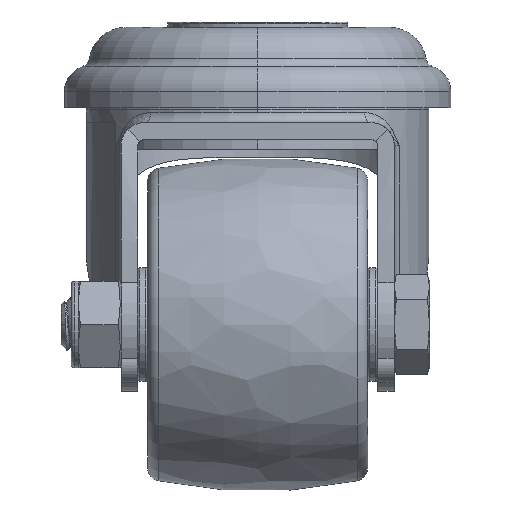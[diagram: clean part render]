
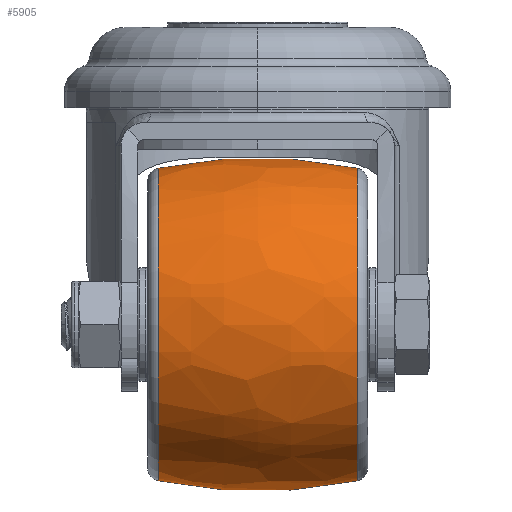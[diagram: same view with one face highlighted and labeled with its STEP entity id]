
A CAD part, left-side view. The second image highlights one B-rep face of the part: STEP entity #5905.
In plain terms, the highlighted free-form (B-spline) face has degree [3, 3] with [7, 4] control points.
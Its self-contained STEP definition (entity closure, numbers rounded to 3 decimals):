
#5727=CARTESIAN_POINT('',(14.911,0.,0.));
#5728=DIRECTION('',(-1.,0.,0.));
#5729=DIRECTION('',(0.,0.,-1.));
#5730=AXIS2_PLACEMENT_3D('',#5727,#5728,#5729);
#5732=CARTESIAN_POINT('',(-14.911,0.,0.));
#5733=DIRECTION('',(-1.,0.,0.));
#5734=DIRECTION('',(0.,0.,-1.));
#5735=AXIS2_PLACEMENT_3D('',#5732,#5733,#5734);
#5742=CARTESIAN_POINT('',(0.,0.,-47.595));
#5743=DIRECTION('',(0.,-1.,0.));
#5744=DIRECTION('',(0.205,0.,0.979));
#5745=AXIS2_PLACEMENT_3D('',#5742,#5743,#5744);
#5752=CARTESIAN_POINT('',(0.,0.,47.595));
#5753=DIRECTION('',(0.,1.,0.));
#5754=DIRECTION('',(0.205,0.,-0.979));
#5755=AXIS2_PLACEMENT_3D('',#5752,#5753,#5754);
#5790=CARTESIAN_POINT('',(14.911,0.,-23.452));
#5791=CARTESIAN_POINT('',(14.911,0.,23.452));
#5792=VERTEX_POINT('',#5790);
#5793=VERTEX_POINT('',#5791);
#5802=CARTESIAN_POINT('',(-14.911,0.,-23.452));
#5803=CARTESIAN_POINT('',(-14.911,0.,23.452));
#5804=VERTEX_POINT('',#5802);
#5805=VERTEX_POINT('',#5803);
#5867=CARTESIAN_POINT('',(-15.498,1.465,23.28));
#5868=CARTESIAN_POINT('',(-5.247,1.605,25.516));
#5869=CARTESIAN_POINT('',(5.247,1.605,25.516));
#5870=CARTESIAN_POINT('',(15.498,1.465,23.28));
#5871=CARTESIAN_POINT('',(-15.498,-12.862,
24.182));
#5872=CARTESIAN_POINT('',(-5.247,-14.097,
26.504));
#5873=CARTESIAN_POINT('',(5.247,-14.097,26.504));
#5874=CARTESIAN_POINT('',(15.498,-12.862,24.182));
#5875=CARTESIAN_POINT('',(-15.498,-23.326,
14.355));
#5876=CARTESIAN_POINT('',(-5.247,-25.567,
15.734));
#5877=CARTESIAN_POINT('',(5.247,-25.567,15.734));
#5878=CARTESIAN_POINT('',(15.498,-23.326,14.355));
#5879=CARTESIAN_POINT('',(-15.498,-23.326,0.));
#5880=CARTESIAN_POINT('',(-5.247,-25.567,0.));
#5881=CARTESIAN_POINT('',(5.247,-25.567,0.));
#5882=CARTESIAN_POINT('',(15.498,-23.326,0.));
#5883=CARTESIAN_POINT('',(-15.498,-23.326,
-14.355));
#5884=CARTESIAN_POINT('',(-5.247,-25.567,
-15.734));
#5885=CARTESIAN_POINT('',(5.247,-25.567,
-15.734));
#5886=CARTESIAN_POINT('',(15.498,-23.326,
-14.355));
#5887=CARTESIAN_POINT('',(-15.498,-12.862,
-24.182));
#5888=CARTESIAN_POINT('',(-5.247,-14.097,
-26.504));
#5889=CARTESIAN_POINT('',(5.247,-14.097,
-26.504));
#5890=CARTESIAN_POINT('',(15.498,-12.862,
-24.182));
#5891=CARTESIAN_POINT('',(-15.498,1.465,
-23.28));
#5892=CARTESIAN_POINT('',(-5.247,1.605,
-25.516));
#5893=CARTESIAN_POINT('',(5.247,1.605,-25.516));
#5894=CARTESIAN_POINT('',(15.498,1.465,-23.28));
#5895=(BOUNDED_SURFACE()B_SPLINE_SURFACE(3,3,((#5867,#5868,#5869,#5870),(#5871,
#5872,#5873,#5874),(#5875,#5876,#5877,#5878),(#5879,#5880,#5881,#5882),(#5883,
#5884,#5885,#5886),(#5887,#5888,#5889,#5890),(#5891,#5892,#5893,#5894)),
.UNSPECIFIED.,.F.,.F.,.F.)B_SPLINE_SURFACE_WITH_KNOTS((4,3,4),(4,4),(0.,1.,
2.),(0.,1.),.UNSPECIFIED.)GEOMETRIC_REPRESENTATION_ITEM()RATIONAL_B_SPLINE_SURFACE(((1.201,1.183,1.183,1.201),(
0.949,0.934,0.934,0.949),(
0.949,0.934,0.934,0.949),(
1.201,1.183,1.183,1.201),(
0.949,0.934,0.934,0.949),(
0.949,0.934,0.934,0.949),(
1.201,1.183,1.183,1.201)))REPRESENTATION_ITEM('')SURFACE());
#5896=ORIENTED_EDGE('',*,*,#5857,.F.);
#5898=ORIENTED_EDGE('',*,*,#5897,.T.);
#5900=ORIENTED_EDGE('',*,*,#5899,.T.);
#5902=ORIENTED_EDGE('',*,*,#5901,.F.);
#5903=EDGE_LOOP('',(#5896,#5898,#5900,#5902));
#5904=FACE_OUTER_BOUND('',#5903,.F.);
#5905=ADVANCED_FACE('',(#5904),#5895,.T.);
#5731=CIRCLE('',#5730,23.452);
#5736=CIRCLE('',#5735,23.452);
#5746=CIRCLE('',#5745,72.595);
#5756=CIRCLE('',#5755,72.595);
#5857=EDGE_CURVE('',#5792,#5793,#5731,.T.);
#5897=EDGE_CURVE('',#5792,#5804,#5756,.T.);
#5899=EDGE_CURVE('',#5804,#5805,#5736,.T.);
#5901=EDGE_CURVE('',#5793,#5805,#5746,.T.);
